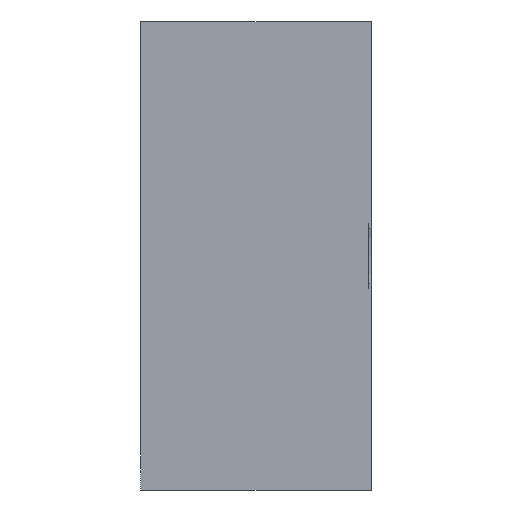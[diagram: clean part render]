
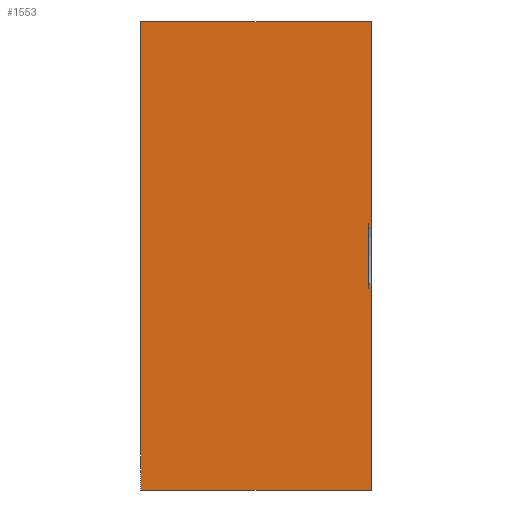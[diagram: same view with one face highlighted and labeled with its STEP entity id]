
A CAD part, left-side view. The second image highlights one B-rep face of the part: STEP entity #1553.
In plain terms, the highlighted planar face has unit normal (-1, 0, 0).
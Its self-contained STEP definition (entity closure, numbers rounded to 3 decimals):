
#15 = DIRECTION ( 'NONE',  ( 0., 0., 1. ) ) ;
#127 = DIRECTION ( 'NONE',  ( 0., 1., 0. ) ) ;
#144 = DIRECTION ( 'NONE',  ( 0., 1., 0. ) ) ;
#171 = CARTESIAN_POINT ( 'NONE',  ( 0., 14.75, 30. ) ) ;
#267 = DIRECTION ( 'NONE',  ( 0., 0., 1. ) ) ;
#439 = ORIENTED_EDGE ( 'NONE', *, *, #4834, .F. ) ;
#456 = VERTEX_POINT ( 'NONE', #8108 ) ;
#527 = VERTEX_POINT ( 'NONE', #9593 ) ;
#802 = EDGE_CURVE ( 'NONE', #7613, #456, #6793, .T. ) ;
#808 = CARTESIAN_POINT ( 'NONE',  ( 0., -14.75, 3.571 ) ) ;
#848 = EDGE_CURVE ( 'NONE', #9186, #1569, #8331, .T. ) ;
#950 = EDGE_LOOP ( 'NONE', ( #1817, #5764, #3674, #439, #8582, #5146, #1034, #6928 ) ) ;
#1013 = CARTESIAN_POINT ( 'NONE',  ( 0., -14.45, -30. ) ) ;
#1034 = ORIENTED_EDGE ( 'NONE', *, *, #5727, .F. ) ;
#1109 = LINE ( 'NONE', #3907, #2644 ) ;
#1553 = ADVANCED_FACE ( 'NONE', ( #1606 ), #4241, .T. ) ;
#1569 = VERTEX_POINT ( 'NONE', #6758 ) ;
#1606 = FACE_OUTER_BOUND ( 'NONE', #950, .T. ) ;
#1644 = VECTOR ( 'NONE', #15, 1000. ) ;
#1817 = ORIENTED_EDGE ( 'NONE', *, *, #8298, .F. ) ;
#2012 = VECTOR ( 'NONE', #3959, 1000. ) ;
#2016 = VERTEX_POINT ( 'NONE', #8914 ) ;
#2333 = VECTOR ( 'NONE', #5484, 1000. ) ;
#2634 = VECTOR ( 'NONE', #4217, 1000. ) ;
#2644 = VECTOR ( 'NONE', #144, 1000. ) ;
#3207 = VECTOR ( 'NONE', #5749, 1000. ) ;
#3674 = ORIENTED_EDGE ( 'NONE', *, *, #5510, .F. ) ;
#3907 = CARTESIAN_POINT ( 'NONE',  ( 0., -14.45, 3.571 ) ) ;
#3959 = DIRECTION ( 'NONE',  ( 0., 0., -1. ) ) ;
#4217 = DIRECTION ( 'NONE',  ( 0., -1., 0. ) ) ;
#4241 = PLANE ( 'NONE',  #5987 ) ;
#4523 = CARTESIAN_POINT ( 'NONE',  ( 0., 14.75, 30. ) ) ;
#4667 = EDGE_CURVE ( 'NONE', #2016, #8540, #5660, .T. ) ;
#4834 = EDGE_CURVE ( 'NONE', #527, #9555, #9814, .T. ) ;
#5146 = ORIENTED_EDGE ( 'NONE', *, *, #4667, .F. ) ;
#5378 = CARTESIAN_POINT ( 'NONE',  ( 0., -14.75, -30. ) ) ;
#5484 = DIRECTION ( 'NONE',  ( 0., 0., -1. ) ) ;
#5510 = EDGE_CURVE ( 'NONE', #9555, #456, #1109, .T. ) ;
#5590 = CARTESIAN_POINT ( 'NONE',  ( 0., -14.75, -3.571 ) ) ;
#5660 = LINE ( 'NONE', #4523, #1644 ) ;
#5727 = EDGE_CURVE ( 'NONE', #1569, #2016, #7461, .T. ) ;
#5749 = DIRECTION ( 'NONE',  ( 0., -1., 0. ) ) ;
#5764 = ORIENTED_EDGE ( 'NONE', *, *, #802, .T. ) ;
#5987 = AXIS2_PLACEMENT_3D ( 'NONE', #8846, #6546, #9566 ) ;
#6088 = CARTESIAN_POINT ( 'NONE',  ( 0., -14.45, -3.571 ) ) ;
#6475 = CARTESIAN_POINT ( 'NONE',  ( 0., -14.75, 30. ) ) ;
#6546 = DIRECTION ( 'NONE',  ( -1., 0., 0. ) ) ;
#6758 = CARTESIAN_POINT ( 'NONE',  ( 0., -14.75, -30. ) ) ;
#6793 = LINE ( 'NONE', #1013, #8812 ) ;
#6848 = LINE ( 'NONE', #8725, #2634 ) ;
#6928 = ORIENTED_EDGE ( 'NONE', *, *, #848, .F. ) ;
#7069 = EDGE_CURVE ( 'NONE', #8540, #527, #9223, .T. ) ;
#7461 = LINE ( 'NONE', #5378, #9238 ) ;
#7613 = VERTEX_POINT ( 'NONE', #6088 ) ;
#8108 = CARTESIAN_POINT ( 'NONE',  ( 0., -14.45, 3.571 ) ) ;
#8298 = EDGE_CURVE ( 'NONE', #7613, #9186, #6848, .T. ) ;
#8331 = LINE ( 'NONE', #9289, #2333 ) ;
#8540 = VERTEX_POINT ( 'NONE', #171 ) ;
#8582 = ORIENTED_EDGE ( 'NONE', *, *, #7069, .F. ) ;
#8725 = CARTESIAN_POINT ( 'NONE',  ( 0., -14.45, -3.571 ) ) ;
#8812 = VECTOR ( 'NONE', #267, 1000. ) ;
#8846 = CARTESIAN_POINT ( 'NONE',  ( 0., 14.75, -30. ) ) ;
#8914 = CARTESIAN_POINT ( 'NONE',  ( 0., 14.75, -30. ) ) ;
#9186 = VERTEX_POINT ( 'NONE', #5590 ) ;
#9223 = LINE ( 'NONE', #6475, #3207 ) ;
#9227 = CARTESIAN_POINT ( 'NONE',  ( 0., -14.75, 30. ) ) ;
#9238 = VECTOR ( 'NONE', #127, 1000. ) ;
#9289 = CARTESIAN_POINT ( 'NONE',  ( 0., -14.75, 30. ) ) ;
#9555 = VERTEX_POINT ( 'NONE', #808 ) ;
#9566 = DIRECTION ( 'NONE',  ( 0., 0., 1. ) ) ;
#9593 = CARTESIAN_POINT ( 'NONE',  ( 0., -14.75, 30. ) ) ;
#9814 = LINE ( 'NONE', #9227, #2012 ) ;
